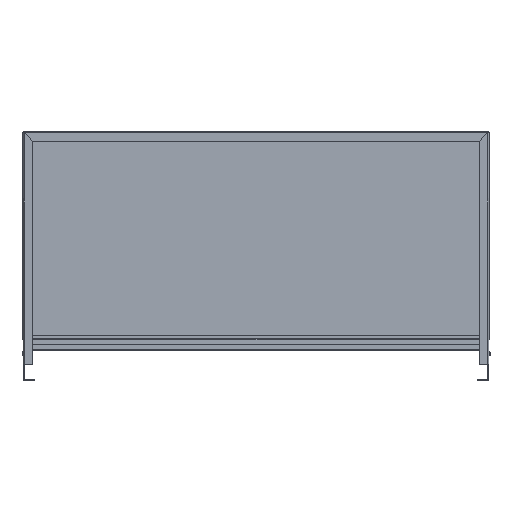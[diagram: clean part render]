
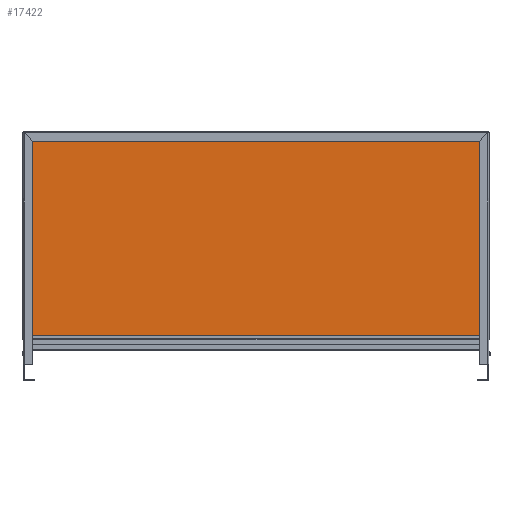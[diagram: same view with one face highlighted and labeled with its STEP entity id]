
A CAD part, front view. The second image highlights one B-rep face of the part: STEP entity #17422.
In plain terms, the highlighted planar face has unit normal (0, -1, 0).
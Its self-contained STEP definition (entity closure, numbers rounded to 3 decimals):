
#12334=CARTESIAN_POINT('',(-625.5,0.8,81.8));
#12335=VERTEX_POINT('',#12334);
#12368=CARTESIAN_POINT('',(-647.771,0.8,647.2));
#12369=VERTEX_POINT('',#12368);
#12399=CARTESIAN_POINT('',(-625.5,0.8,624.929));
#12400=VERTEX_POINT('',#12399);
#12407=CARTESIAN_POINT('',(-625.5,0.8,624.929));
#12408=DIRECTION('',(-0.707,0.,0.707));
#12409=VECTOR('',#12408,31.496);
#12410=LINE('',#12407,#12409);
#12411=EDGE_CURVE('',#12400,#12369,#12410,.T.);
#12436=CARTESIAN_POINT('',(-625.5,0.8,624.929));
#12437=DIRECTION('',(0.,-0.,-1.));
#12438=VECTOR('',#12437,543.129);
#12439=LINE('',#12436,#12438);
#12440=EDGE_CURVE('',#12400,#12335,#12439,.T.);
#12592=CARTESIAN_POINT('',(625.5,0.8,81.8));
#12593=VERTEX_POINT('',#12592);
#12608=CARTESIAN_POINT('',(647.771,0.8,647.2));
#12609=VERTEX_POINT('',#12608);
#12662=CARTESIAN_POINT('',(625.5,0.8,624.929));
#12663=VERTEX_POINT('',#12662);
#12664=CARTESIAN_POINT('',(647.771,0.8,647.2));
#12665=DIRECTION('',(-0.707,-0.,-0.707));
#12666=VECTOR('',#12665,31.496);
#12667=LINE('',#12664,#12666);
#12668=EDGE_CURVE('',#12609,#12663,#12667,.T.);
#12686=CARTESIAN_POINT('',(625.5,0.8,81.8));
#12687=DIRECTION('',(0.,-0.,1.));
#12688=VECTOR('',#12687,543.129);
#12689=LINE('',#12686,#12688);
#12690=EDGE_CURVE('',#12593,#12663,#12689,.T.);
#12848=CARTESIAN_POINT('',(-647.629,0.8,647.2));
#12849=VERTEX_POINT('',#12848);
#12856=CARTESIAN_POINT('',(-625.429,0.8,625.));
#12857=VERTEX_POINT('',#12856);
#12858=CARTESIAN_POINT('',(-647.629,0.8,647.2));
#12859=DIRECTION('',(0.707,-0.,-0.707));
#12860=VECTOR('',#12859,31.396);
#12861=LINE('',#12858,#12860);
#12862=EDGE_CURVE('',#12849,#12857,#12861,.T.);
#12909=CARTESIAN_POINT('',(647.629,0.8,647.2));
#12910=VERTEX_POINT('',#12909);
#12941=CARTESIAN_POINT('',(625.429,0.8,625.));
#12942=VERTEX_POINT('',#12941);
#12949=CARTESIAN_POINT('',(625.429,0.8,625.));
#12950=DIRECTION('',(0.707,0.,0.707));
#12951=VECTOR('',#12950,31.396);
#12952=LINE('',#12949,#12951);
#12953=EDGE_CURVE('',#12942,#12910,#12952,.T.);
#12972=CARTESIAN_POINT('',(625.429,0.8,625.));
#12973=DIRECTION('',(-1.,-0.,0.));
#12974=VECTOR('',#12973,1250.859);
#12975=LINE('',#12972,#12974);
#12976=EDGE_CURVE('',#12942,#12857,#12975,.T.);
#17390=CARTESIAN_POINT('',(0.,0.8,0.));
#17391=DIRECTION('',(0.,1.,0.));
#17392=DIRECTION('',(-1.,0.,0.));
#17393=AXIS2_PLACEMENT_3D('',#17390,#17391,#17392);
#17394=PLANE('',#17393);
#17395=ORIENTED_EDGE('',*,*,#12411,.F.);
#17396=ORIENTED_EDGE('',*,*,#12440,.T.);
#17397=CARTESIAN_POINT('',(625.5,0.8,81.8));
#17398=DIRECTION('',(-1.,0.,0.));
#17399=VECTOR('',#17398,1251.);
#17400=LINE('',#17397,#17399);
#17401=EDGE_CURVE('',#12593,#12335,#17400,.T.);
#17402=ORIENTED_EDGE('',*,*,#17401,.F.);
#17403=ORIENTED_EDGE('',*,*,#12690,.T.);
#17404=ORIENTED_EDGE('',*,*,#12668,.F.);
#17405=CARTESIAN_POINT('',(647.629,0.8,647.2));
#17406=DIRECTION('',(1.,0.,-0.));
#17407=VECTOR('',#17406,0.141);
#17408=LINE('',#17405,#17407);
#17409=EDGE_CURVE('',#12910,#12609,#17408,.T.);
#17410=ORIENTED_EDGE('',*,*,#17409,.F.);
#17411=ORIENTED_EDGE('',*,*,#12953,.F.);
#17412=ORIENTED_EDGE('',*,*,#12976,.T.);
#17413=ORIENTED_EDGE('',*,*,#12862,.F.);
#17414=CARTESIAN_POINT('',(-647.771,0.8,647.2));
#17415=DIRECTION('',(1.,0.,-0.));
#17416=VECTOR('',#17415,0.141);
#17417=LINE('',#17414,#17416);
#17418=EDGE_CURVE('',#12369,#12849,#17417,.T.);
#17419=ORIENTED_EDGE('',*,*,#17418,.F.);
#17420=EDGE_LOOP('',(#17395,#17396,#17402,#17403,#17404,#17410,#17411,#17412,#17413,#17419));
#17421=FACE_BOUND('',#17420,.T.);
#17422=ADVANCED_FACE('',(#17421),#17394,.F.);
